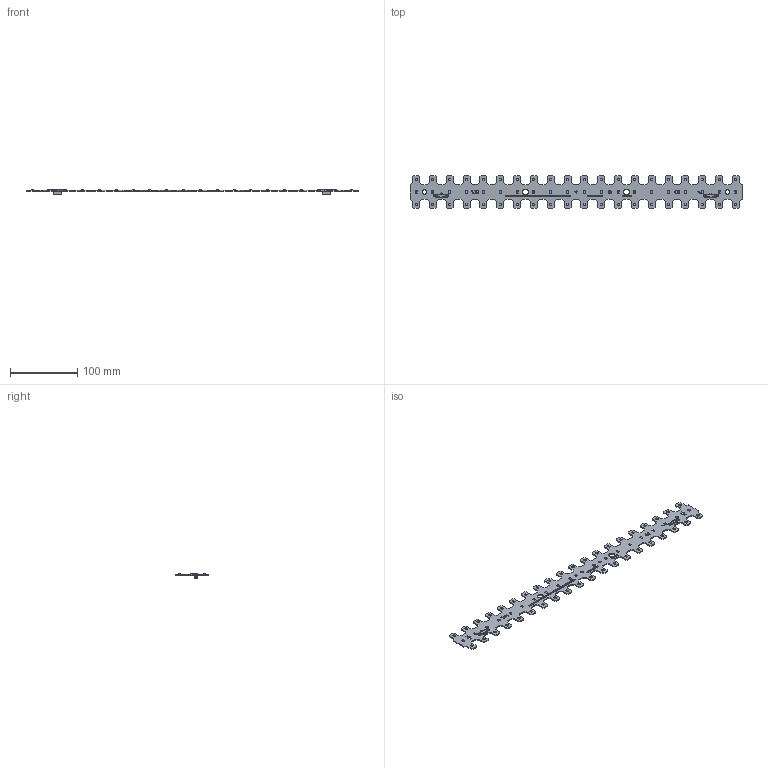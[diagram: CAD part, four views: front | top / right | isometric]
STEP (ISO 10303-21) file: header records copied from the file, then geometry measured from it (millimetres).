
FILE_DESCRIPTION((''),'2;1');
FILE_NAME('ASM_WITH-LOGO_DIODE_CONECTORI__ASM','2021-11-10T09:33:32',('msavic'),(''),'CREO PARAMETRIC BY PTC INC, 2016510','CREO PARAMETRIC BY PTC INC, 2016510','');
FILE_SCHEMA(('AUTOMOTIVE_DESIGN { 1 0 10303 214 1 1 1 1 }'));
Products named in the file (15): BAZA_WU-M-619; VSO-LOGO-5MM_3_5_1_2; VSO-LOGO-5MM001_2_1_4_1_1; BUILT-IN_LED_MODULE-5MM004_2_6_; BUILT-IN_LED_MODULE-5MM003_2_5_; BUILT-IN_LED_MODULE-5MM002_2_4_; BUILT-IN_LED_MODULE-5MM001_2_5_; CE-ZEICHEN-6MM_2_6_1; CE-ZEICHEN-6MM001_2_7_1; 3DFILE_STW8A2PD_ASM; WAGO_KONEKTOR_2070-461-998-406; OLD_TEXT_LUDEN__; REV_2018_TEXT; DATACODE_TEXT-PLOCICA; ASM_WITH-LOGO_DIODE_CONECTORI__ASM
Assembly tree (75 placements, depth 2):
  ASM_WITH-LOGO_DIODE_CONECTORI__ASM
    BAZA_WU-M-619
    VSO-LOGO-5MM_3_5_1_2
    VSO-LOGO-5MM001_2_1_4_1_1
    BUILT-IN_LED_MODULE-5MM004_2_6_
    BUILT-IN_LED_MODULE-5MM003_2_5_
    BUILT-IN_LED_MODULE-5MM002_2_4_
    BUILT-IN_LED_MODULE-5MM001_2_5_  x2
    CE-ZEICHEN-6MM_2_6_1
    CE-ZEICHEN-6MM001_2_7_1
    3DFILE_STW8A2PD_ASM  x60
    WAGO_KONEKTOR_2070-461-998-406  x2
    OLD_TEXT_LUDEN__
    REV_2018_TEXT
    DATACODE_TEXT-PLOCICA
Bounding box: 493 x 49 x 7.45 mm (x, y, z)
Volume: 26818.7 mm3; surface area: 40230.4 mm2
Topology: 15 solids, 75 shells, 8897 faces, 27608 edges, 19282 vertices
Faces by surface type: plane 7762, cylinder 1113, cone 12, extrusion 10
Entity records: 161559 total; most frequent: CARTESIAN_POINT 26491, ORIENTED_EDGE 25732, DIRECTION 20824, EDGE_CURVE 12866, VECTOR 12568, LINE 12558, VERTEX_POINT 9458, AXIS2_PLACEMENT_3D 4106
